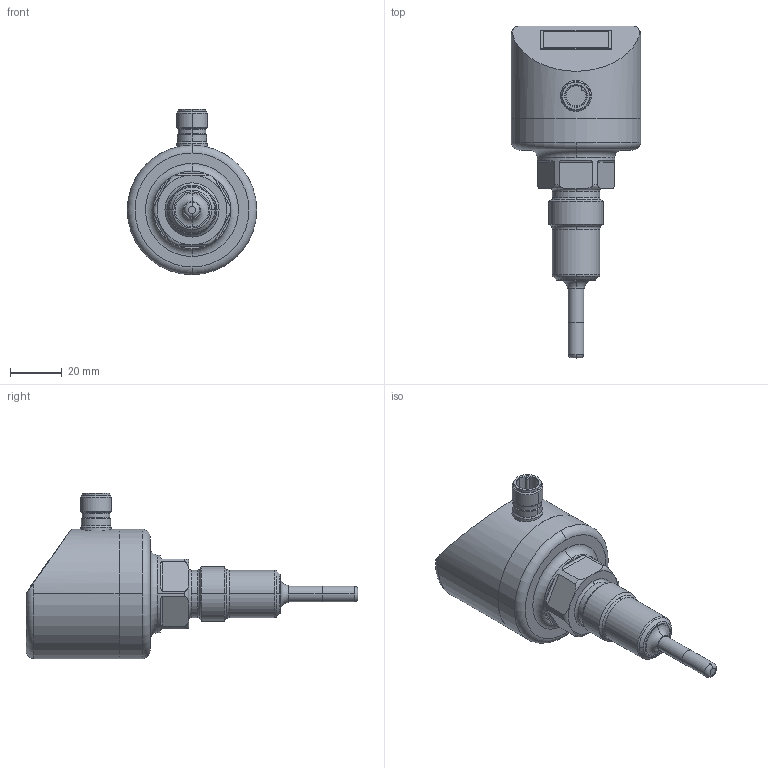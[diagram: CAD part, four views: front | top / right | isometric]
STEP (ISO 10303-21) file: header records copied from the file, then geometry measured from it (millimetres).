
FILE_DESCRIPTION( ( '' ), '1' );
FILE_NAME( '//expscmdclustefs.cadenas.external/client_exchange/iodir/jobs/output/wkb58025319_no0/STEP/TD2507_2_03.stp', '2013-05-15T08:07:43', ( '' ), ( '' ), ' ', ' ', ' ' );
FILE_SCHEMA( ( 'CONFIG_CONTROL_DESIGN' ) );
Length unit declared in the file: millimetre
Products named in the file (1): 1
Bounding box: 50.1 x 128.5 x 64 mm (x, y, z)
Volume: 108552.8 mm3; surface area: 15184.7 mm2
Topology: 1 solids, 1 shells, 152 faces, 402 edges, 264 vertices
Faces by surface type: plane 60, cylinder 41, torus 35, cone 16
Entity records: 5427 total; most frequent: CARTESIAN_POINT 1492, DIRECTION 873, ORIENTED_EDGE 804, EDGE_CURVE 402, AXIS2_PLACEMENT_3D 363, VERTEX_POINT 264, CIRCLE 209, EDGE_LOOP 164
